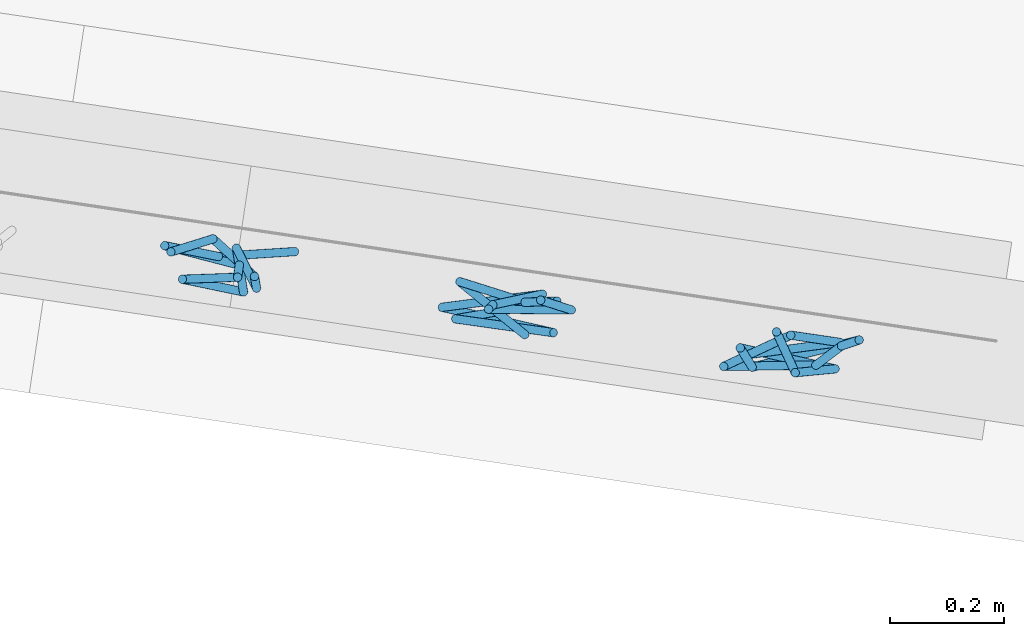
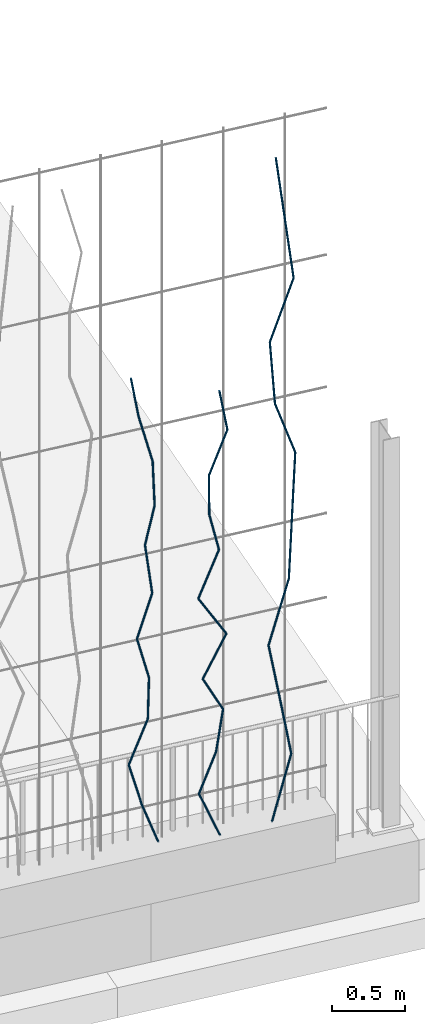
# One storey, part 120 of 142: 33 members, 1 element without a shape of its own.
"""IFC4 building model written with IfcOpenShell, lengths in metres."""

from ifc_helpers import new_model, si_unit, direction, frame, origin_with_axes, place, context, subcontext, project, spatial, circle, extrude, material, material_profile, profile_set, profile_usage, type_object, element, aggregate, save


model = new_model("IFC4")

# Units and contexts
model_context = context("Model", 3, precision=1e-05, world=origin_with_axes(), true_north=direction((0.0, 1.0)))
body_context = subcontext(model_context, "Body", "Model", "MODEL_VIEW")
ifc_project = project(units=[si_unit("VOLUMEUNIT", "CUBIC_METRE"), si_unit("LENGTHUNIT", "METRE"), si_unit("AREAUNIT", "SQUARE_METRE")], contexts=[model_context])

# Site, building, storey
site_placement = place(None, origin_with_axes())
site = spatial("IfcSite", under=ifc_project, at=site_placement, Name="Lares · Rua das Mercês · artigo 4771")
building_placement = place(site_placement, frame((12.0, 10.2, 13.9), z_axis=(0.0, 0.0, 1.0), x_axis=(0.989015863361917, -0.147809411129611, 0.0)))
building = spatial("IfcBuilding", under=site, at=building_placement, Name="Casa Sobreposta")
storey_placement = place(building_placement, origin_with_axes())
storey = spatial("IfcBuildingStorey", under=building, at=storey_placement, Name="00 · Habitação e estacionamento", Elevation=13.9)

# Assembly, members
assembly_placement = place(storey_placement, origin_with_axes())
assembly = element("IfcElementAssembly", 1, at=assembly_placement, inside=storey, Name="Fachada sul e pátio · estrutura e trepadeiras", ObjectType="LIVING_SHADE_TRELLIS", PredefinedType="USERDEFINED")
ifc_material = material(Name="Ramos de trepadeiras", Category="wood")
ifc_material_profile = material_profile(ifc_material, circle(Radius=0.0075))
ifc_profile_set = profile_set([ifc_material_profile], Name="D0.015")
ifc_profile_usage_1 = profile_usage(ifc_profile_set)
member_type = type_object("IfcMemberType", Name="D0.015 / vine_wood", PredefinedType="NOTDEFINED", material=ifc_profile_set)
member_1_placement = place(assembly_placement, frame((30.261618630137, -1.63679709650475, 0.35), z_axis=(-0.341987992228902, -0.073852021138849, 0.936797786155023), x_axis=(-0.211083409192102, 0.977468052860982, 0.0)))
member_1 = element("IfcMember", 2, at=member_1_placement, type_object=member_type, material=ifc_profile_usage_1, Name="Trepadeiras · ramo", context=body_context, shape_type="SweptSolid", body=[
    extrude(circle(Radius=0.0075), origin_with_axes(), (0.0, 0.0, 1.0), 0.381675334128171),
])
ifc_profile_usage_2 = profile_usage(ifc_profile_set)
member_2_placement = place(assembly_placement, frame((30.1310902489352, -1.66498459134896, 0.707552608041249), z_axis=(-0.258918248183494, 0.0129089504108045, 0.96581297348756), x_axis=(0.0497953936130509, 0.998759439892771, 0.0)))
member_2 = element("IfcMember", 3, at=member_2_placement, type_object=member_type, material=ifc_profile_usage_2, Name="Trepadeiras · ramo", context=body_context, shape_type="SweptSolid", body=[
    extrude(circle(Radius=0.0075), origin_with_axes(), (0.0, 0.0, 1.0), 0.370208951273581),
])
ifc_profile_usage_3 = profile_usage(ifc_profile_set)
member_3_placement = place(assembly_placement, frame((30.0352363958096, -1.66020558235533, 1.0651052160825), z_axis=(0.350865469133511, -0.0374713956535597, 0.935675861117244), x_axis=(-0.106193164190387, -0.994345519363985, 0.0)))
member_3 = element("IfcMember", 4, at=member_3_placement, type_object=member_type, material=ifc_profile_usage_3, Name="Trepadeiras · ramo", context=body_context, shape_type="SweptSolid", body=[
    extrude(circle(Radius=0.0075), origin_with_axes(), (0.0, 0.0, 1.0), 0.382132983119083),
])
ifc_profile_usage_4 = profile_usage(ifc_profile_set)
member_4_placement = place(assembly_placement, frame((30.1693136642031, -1.67452463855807, 1.42265782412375), z_axis=(0.000383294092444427, -0.0596842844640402, 0.998217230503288), x_axis=(-0.999979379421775, -0.00642189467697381, 0.0)))
member_4 = element("IfcMember", 5, at=member_4_placement, type_object=member_type, material=ifc_profile_usage_4, Name="Trepadeiras · ramo", context=body_context, shape_type="SweptSolid", body=[
    extrude(circle(Radius=0.0075), origin_with_axes(), (0.0, 0.0, 1.0), 0.358191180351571),
])
ifc_profile_usage_5 = profile_usage(ifc_profile_set)
member_5_placement = place(assembly_placement, frame((30.1694509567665, -1.69590302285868, 1.78021043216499), z_axis=(-0.256144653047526, -0.0477982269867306, 0.965455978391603), x_axis=(-0.183439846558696, 0.98303093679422, 0.0)))
member_5 = element("IfcMember", 6, at=member_5_placement, type_object=member_type, material=ifc_profile_usage_5, Name="Trepadeiras · ramo", context=body_context, shape_type="SweptSolid", body=[
    extrude(circle(Radius=0.0075), origin_with_axes(), (0.0, 0.0, 1.0), 0.370345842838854),
])
ifc_profile_usage_6 = profile_usage(ifc_profile_set)
member_6_placement = place(assembly_placement, frame((30.0745888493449, -1.71360489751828, 2.13776304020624), z_axis=(0.291697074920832, -0.0167889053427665, 0.956363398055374), x_axis=(-0.0574608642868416, -0.998347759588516, 0.0)))
member_6 = element("IfcMember", 7, at=member_6_placement, type_object=member_type, material=ifc_profile_usage_6, Name="Trepadeiras · ramo", context=body_context, shape_type="SweptSolid", body=[
    extrude(circle(Radius=0.0075), origin_with_axes(), (0.0, 0.0, 1.0), 0.373866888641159),
])
ifc_profile_usage_7 = profile_usage(ifc_profile_set)
member_7_placement = place(assembly_placement, frame((30.1836447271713, -1.71988171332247, 2.49531564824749), z_axis=(-0.064696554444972, 0.202860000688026, 0.977068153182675), x_axis=(0.95272176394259, 0.303844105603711, 7.96021462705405e-18)))
member_7 = element("IfcMember", 8, at=member_7_placement, type_object=member_type, material=ifc_profile_usage_7, Name="Trepadeiras · ramo", context=body_context, shape_type="SweptSolid", body=[
    extrude(circle(Radius=0.0075), origin_with_axes(), (0.0, 0.0, 1.0), 0.365944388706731),
])
ifc_profile_usage_8 = profile_usage(ifc_profile_set)
member_8_placement = place(assembly_placement, frame((30.1599693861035, -1.64564623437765, 2.85286825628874), z_axis=(0.123292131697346, -0.175486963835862, 0.976730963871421), x_axis=(-0.818242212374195, -0.574873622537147, 0.0)))
member_8 = element("IfcMember", 9, at=member_8_placement, type_object=member_type, material=ifc_profile_usage_8, Name="Trepadeiras · ramo", context=body_context, shape_type="SweptSolid", body=[
    extrude(circle(Radius=0.0075), origin_with_axes(), (0.0, 0.0, 1.0), 0.366070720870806),
])
ifc_profile_usage_9 = profile_usage(ifc_profile_set)
member_9_placement = place(assembly_placement, frame((30.2051030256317, -1.70988687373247, 3.21042086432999), z_axis=(-0.0181704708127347, 0.055018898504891, 0.998319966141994), x_axis=(0.949555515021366, 0.313598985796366, 0.0)))
member_9 = element("IfcMember", 10, at=member_9_placement, type_object=member_type, material=ifc_profile_usage_9, Name="Trepadeiras · ramo", context=body_context, shape_type="SweptSolid", body=[
    extrude(circle(Radius=0.0075), origin_with_axes(), (0.0, 0.0, 1.0), 0.358154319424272),
])
ifc_profile_usage_10 = profile_usage(ifc_profile_set)
member_10_placement = place(assembly_placement, frame((30.1985951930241, -1.69018161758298, 3.56797347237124), z_axis=(-0.219940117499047, 0.14657027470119, 0.964439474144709), x_axis=(0.554552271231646, 0.83214889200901, 0.0)))
member_10 = element("IfcMember", 11, at=member_10_placement, type_object=member_type, material=ifc_profile_usage_10, Name="Trepadeiras · ramo", context=body_context, shape_type="SweptSolid", body=[
    extrude(circle(Radius=0.0075), origin_with_axes(), (0.0, 0.0, 1.0), 0.370736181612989),
])
ifc_profile_usage_11 = profile_usage(ifc_profile_set)
member_11_placement = place(assembly_placement, frame((30.117055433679, -1.63584271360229, 3.92552608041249), z_axis=(-0.189986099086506, -0.0918125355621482, 0.977484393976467), x_axis=(-0.435114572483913, 0.90037509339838, 0.0)))
member_11 = element("IfcMember", 12, at=member_11_placement, type_object=member_type, material=ifc_profile_usage_11, Name="Trepadeiras · ramo", context=body_context, shape_type="SweptSolid", body=[
    extrude(circle(Radius=0.0075), origin_with_axes(), (0.0, 0.0, 1.0), 0.365788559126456),
])
ifc_profile_usage_12 = profile_usage(ifc_profile_set)
member_12_placement = place(assembly_placement, frame((30.6816189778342, -1.72103625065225, 0.35), z_axis=(-0.348194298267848, 0.206069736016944, 0.914492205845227), x_axis=(0.509312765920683, 0.860581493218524, 0.0)))
member_12 = element("IfcMember", 13, at=member_12_placement, type_object=member_type, material=ifc_profile_usage_12, Name="Trepadeiras · ramo", context=body_context, shape_type="SweptSolid", body=[
    extrude(circle(Radius=0.0075), origin_with_axes(), (0.0, 0.0, 1.0), 0.363374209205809),
])
ifc_profile_usage_13 = profile_usage(ifc_profile_set)
member_13_placement = place(assembly_placement, frame((30.5550941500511, -1.64615582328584, 0.682302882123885), z_axis=(0.33475661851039, -0.0529891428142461, 0.940813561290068), x_axis=(-0.156344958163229, -0.987702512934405, 0.0)))
member_13 = element("IfcMember", 14, at=member_13_placement, type_object=member_type, material=ifc_profile_usage_13, Name="Trepadeiras · ramo", context=body_context, shape_type="SweptSolid", body=[
    extrude(circle(Radius=0.0075), origin_with_axes(), (0.0, 0.0, 1.0), 0.353208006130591),
])
ifc_profile_usage_14 = profile_usage(ifc_profile_set)
member_14_placement = place(assembly_placement, frame((30.6733328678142, -1.66487201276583, 1.01460576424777), z_axis=(0.163555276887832, 0.0298620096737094, 0.986082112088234), x_axis=(0.179611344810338, -0.983737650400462, 0.0)))
member_14 = element("IfcMember", 15, at=member_14_placement, type_object=member_type, material=ifc_profile_usage_14, Name="Trepadeiras · ramo", context=body_context, shape_type="SweptSolid", body=[
    extrude(circle(Radius=0.0075), origin_with_axes(), (0.0, 0.0, 1.0), 0.336993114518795),
])
ifc_profile_usage_15 = profile_usage(ifc_profile_set)
member_15_placement = place(assembly_placement, frame((30.7284498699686, -1.6548087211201, 1.34690864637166), z_axis=(-0.452950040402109, -0.150341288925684, 0.87876831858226), x_axis=(-0.315016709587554, 0.949086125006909, 0.0)))
member_15 = element("IfcMember", 16, at=member_15_placement, type_object=member_type, material=ifc_profile_usage_15, Name="Trepadeiras · ramo", context=body_context, shape_type="SweptSolid", body=[
    extrude(circle(Radius=0.0075), origin_with_axes(), (0.0, 0.0, 1.0), 0.378146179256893),
])
ifc_profile_usage_16 = profile_usage(ifc_profile_set)
member_16_placement = place(assembly_placement, frame((30.5571685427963, -1.7116597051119, 1.67921152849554), z_axis=(0.462645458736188, 0.00382392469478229, 0.886535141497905), x_axis=(0.00826506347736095, -0.999965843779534, 0.0)))
member_16 = element("IfcMember", 17, at=member_16_placement, type_object=member_type, material=ifc_profile_usage_16, Name="Trepadeiras · ramo", context=body_context, shape_type="SweptSolid", body=[
    extrude(circle(Radius=0.0075), origin_with_axes(), (0.0, 0.0, 1.0), 0.37483328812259),
])
ifc_profile_usage_17 = profile_usage(ifc_profile_set)
member_17_placement = place(assembly_placement, frame((30.7305834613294, -1.71022637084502, 2.01151441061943), z_axis=(-0.514458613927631, 0.0391758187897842, 0.856619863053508), x_axis=(0.0759297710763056, 0.997113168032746, 0.0)))
member_17 = element("IfcMember", 18, at=member_17_placement, type_object=member_type, material=ifc_profile_usage_17, Name="Trepadeiras · ramo", context=body_context, shape_type="SweptSolid", body=[
    extrude(circle(Radius=0.0075), origin_with_axes(), (0.0, 0.0, 1.0), 0.387923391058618),
])
ifc_profile_usage_18 = profile_usage(ifc_profile_set)
member_18_placement = place(assembly_placement, frame((30.5310129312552, -1.69502915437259, 2.34381729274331), z_axis=(0.452918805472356, 0.129015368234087, 0.882167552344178), x_axis=(0.273955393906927, -0.961742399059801, 0.0)))
member_18 = element("IfcMember", 19, at=member_18_placement, type_object=member_type, material=ifc_profile_usage_18, Name="Trepadeiras · ramo", context=body_context, shape_type="SweptSolid", body=[
    extrude(circle(Radius=0.0075), origin_with_axes(), (0.0, 0.0, 1.0), 0.376689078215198),
])
ifc_profile_usage_19 = profile_usage(ifc_profile_set)
member_19_placement = place(assembly_placement, frame((30.7016224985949, -1.6464304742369, 2.6761201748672), z_axis=(-0.242328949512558, -0.0911697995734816, 0.96590100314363), x_axis=(-0.352127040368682, 0.935952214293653, 0.0)))
member_19 = element("IfcMember", 20, at=member_19_placement, type_object=member_type, material=ifc_profile_usage_19, Name="Trepadeiras · ramo", context=body_context, shape_type="SweptSolid", body=[
    extrude(circle(Radius=0.0075), origin_with_axes(), (0.0, 0.0, 1.0), 0.344034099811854),
])
ifc_profile_usage_20 = profile_usage(ifc_profile_set)
member_20_placement = place(assembly_placement, frame((30.618253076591, -1.67779599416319, 3.00842305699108), z_axis=(-0.018591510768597, -0.0255179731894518, 0.999501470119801), x_axis=(0.999827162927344, -0.000474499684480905, 0.0185854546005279)))
member_20 = element("IfcMember", 21, at=member_20_placement, type_object=member_type, material=ifc_profile_usage_20, Name="Trepadeiras · ramo", context=body_context, shape_type="SweptSolid", body=[
    extrude(circle(Radius=0.0075), origin_with_axes(), (0.0, 0.0, 1.0), 0.332468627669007),
])
ifc_profile_usage_21 = profile_usage(ifc_profile_set)
member_21_placement = place(assembly_placement, frame((30.6120719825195, -1.68627991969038, 3.34072593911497), z_axis=(0.395625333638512, 0.0554248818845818, 0.916738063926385), x_axis=(0.138739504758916, -0.990328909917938, 0.0)))
member_21 = element("IfcMember", 22, at=member_21_placement, type_object=member_type, material=ifc_profile_usage_21, Name="Trepadeiras · ramo", context=body_context, shape_type="SweptSolid", body=[
    extrude(circle(Radius=0.0075), origin_with_axes(), (0.0, 0.0, 1.0), 0.362484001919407),
])
ifc_profile_usage_22 = profile_usage(ifc_profile_set)
member_22_placement = place(assembly_placement, frame((30.7554798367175, -1.66618928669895, 3.67302882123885), z_axis=(-0.164939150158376, 0.0266499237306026, 0.985943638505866), x_axis=(0.159505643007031, 0.987197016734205, 0.0)))
member_22 = element("IfcMember", 23, at=member_22_placement, type_object=member_type, material=ifc_profile_usage_22, Name="Trepadeiras · ramo", context=body_context, shape_type="SweptSolid", body=[
    extrude(circle(Radius=0.0075), origin_with_axes(), (0.0, 0.0, 1.0), 0.337040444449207),
])
ifc_profile_usage_23 = profile_usage(ifc_profile_set)
member_23_placement = place(assembly_placement, frame((31.0679707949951, -1.69918109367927, 0.35), z_axis=(0.30526701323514, 0.0879293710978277, 0.948198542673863), x_axis=(0.276787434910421, -0.960931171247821, 0.0)))
member_23 = element("IfcMember", 24, at=member_23_placement, type_object=member_type, material=ifc_profile_usage_23, Name="Trepadeiras · ramo", context=body_context, shape_type="SweptSolid", body=[
    extrude(circle(Radius=0.0075), origin_with_axes(), (0.0, 0.0, 1.0), 0.525688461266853),
])
ifc_profile_usage_24 = profile_usage(ifc_profile_set)
member_24_placement = place(assembly_placement, frame((31.2284461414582, -1.65295763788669, 0.848457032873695), z_axis=(-0.171477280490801, -0.000359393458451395, 0.985188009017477), x_axis=(-0.00209586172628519, 0.9999978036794, 0.0)))
member_24 = element("IfcMember", 25, at=member_24_placement, type_object=member_type, material=ifc_profile_usage_24, Name="Trepadeiras · ramo", context=body_context, shape_type="SweptSolid", body=[
    extrude(circle(Radius=0.0075), origin_with_axes(), (0.0, 0.0, 1.0), 0.505951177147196),
])
ifc_profile_usage_25 = profile_usage(ifc_profile_set)
member_25_placement = place(assembly_placement, frame((31.1416870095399, -1.65313947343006, 1.34691406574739), z_axis=(-0.209536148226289, -0.138759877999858, 0.967905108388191), x_axis=(-0.552133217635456, 0.833755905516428, 1.33620471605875e-17)))
member_25 = element("IfcMember", 26, at=member_25_placement, type_object=member_type, material=ifc_profile_usage_25, Name="Trepadeiras · ramo", context=body_context, shape_type="SweptSolid", body=[
    extrude(circle(Radius=0.0075), origin_with_axes(), (0.0, 0.0, 1.0), 0.514985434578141),
])
ifc_profile_usage_26 = profile_usage(ifc_profile_set)
member_26_placement = place(assembly_placement, frame((31.0337789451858, -1.72459878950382, 1.84537109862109), z_axis=(0.303896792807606, 0.0499440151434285, 0.951394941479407), x_axis=(0.162169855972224, -0.986762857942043, 0.0)))
member_26 = element("IfcMember", 27, at=member_26_placement, type_object=member_type, material=ifc_profile_usage_26, Name="Trepadeiras · ramo", context=body_context, shape_type="SweptSolid", body=[
    extrude(circle(Radius=0.0075), origin_with_axes(), (0.0, 0.0, 1.0), 0.523922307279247),
])
ifc_profile_usage_27 = profile_usage(ifc_profile_set)
member_27_placement = place(assembly_placement, frame((31.1929972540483, -1.69843200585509, 2.34382813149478), z_axis=(0.0784318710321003, 0.0796506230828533, 0.993732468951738), x_axis=(0.71253711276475, -0.701634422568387, 0.0)))
member_27 = element("IfcMember", 28, at=member_27_placement, type_object=member_type, material=ifc_profile_usage_27, Name="Trepadeiras · ramo", context=body_context, shape_type="SweptSolid", body=[
    extrude(circle(Radius=0.0075), origin_with_axes(), (0.0, 0.0, 1.0), 0.501600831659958),
])
ifc_profile_usage_28 = profile_usage(ifc_profile_set)
member_28_placement = place(assembly_placement, frame((31.2323387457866, -1.6584791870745, 2.84228516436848), z_axis=(0.0579605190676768, 0.0295137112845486, 0.997882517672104), x_axis=(0.453762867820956, -0.891122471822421, 0.0)))
member_28 = element("IfcMember", 29, at=member_28_placement, type_object=member_type, material=ifc_profile_usage_28, Name="Trepadeiras · ramo", context=body_context, shape_type="SweptSolid", body=[
    extrude(circle(Radius=0.0075), origin_with_axes(), (0.0, 0.0, 1.0), 0.499514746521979),
])
ifc_profile_usage_29 = profile_usage(ifc_profile_set)
member_29_placement = place(assembly_placement, frame((31.261290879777, -1.64373665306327, 3.34074219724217), z_axis=(-0.333224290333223, -0.139669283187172, 0.932445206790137), x_axis=(-0.386562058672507, 0.922263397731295, 0.0)))
member_29 = element("IfcMember", 30, at=member_29_placement, type_object=member_type, material=ifc_profile_usage_29, Name="Trepadeiras · ramo", context=body_context, shape_type="SweptSolid", body=[
    extrude(circle(Radius=0.0075), origin_with_axes(), (0.0, 0.0, 1.0), 0.534569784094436),
])
ifc_profile_usage_30 = profile_usage(ifc_profile_set)
member_30_placement = place(assembly_placement, frame((31.0831592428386, -1.71839963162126, 3.83919923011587), z_axis=(-0.0511214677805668, 0.0604637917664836, 0.99686043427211), x_axis=(0.763636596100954, 0.645646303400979, 0.0)))
member_30 = element("IfcMember", 31, at=member_30_placement, type_object=member_type, material=ifc_profile_usage_30, Name="Trepadeiras · ramo", context=body_context, shape_type="SweptSolid", body=[
    extrude(circle(Radius=0.0075), origin_with_axes(), (0.0, 0.0, 1.0), 0.500026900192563),
])
ifc_profile_usage_31 = profile_usage(ifc_profile_set)
member_31_placement = place(assembly_placement, frame((31.0575971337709, -1.68816610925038, 4.33765626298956), z_axis=(0.321908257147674, -0.0224785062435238, 0.946503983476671), x_axis=(-0.0696592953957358, -0.997570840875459, 0.0)))
member_31 = element("IfcMember", 32, at=member_31_placement, type_object=member_type, material=ifc_profile_usage_31, Name="Trepadeiras · ramo", context=body_context, shape_type="SweptSolid", body=[
    extrude(circle(Radius=0.0075), origin_with_axes(), (0.0, 0.0, 1.0), 0.526629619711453),
])
ifc_profile_usage_32 = profile_usage(ifc_profile_set)
member_32_placement = place(assembly_placement, frame((31.2271235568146, -1.70000395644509, 4.83611329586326), z_axis=(-0.135139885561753, -0.033668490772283, 0.990254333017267), x_axis=(-0.241748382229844, 0.970338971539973, 0.0)))
member_32 = element("IfcMember", 33, at=member_32_placement, type_object=member_type, material=ifc_profile_usage_32, Name="Trepadeiras · ramo", context=body_context, shape_type="SweptSolid", body=[
    extrude(circle(Radius=0.0075), origin_with_axes(), (0.0, 0.0, 1.0), 0.503362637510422),
])
ifc_profile_usage_33 = profile_usage(ifc_profile_set)
member_33_placement = place(assembly_placement, frame((31.1590991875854, -1.71695141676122, 5.33457032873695), z_axis=(-0.0851428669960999, 0.130646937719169, 0.987766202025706), x_axis=(0.837791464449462, 0.545990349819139, 0.0)))
member_33 = element("IfcMember", 34, at=member_33_placement, type_object=member_type, material=ifc_profile_usage_33, Name="Trepadeiras · ramo", context=body_context, shape_type="SweptSolid", body=[
    extrude(circle(Radius=0.0075), origin_with_axes(), (0.0, 0.0, 1.0), 0.504630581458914),
])
aggregate(assembly, [member_1, member_2, member_3, member_4, member_5, member_6, member_7, member_8, member_9, member_10, member_11, member_12, member_13, member_14, member_15, member_16, member_17, member_18, member_19, member_20, member_21, member_22, member_23, member_24, member_25, member_26, member_27, member_28, member_29, member_30, member_31, member_32, member_33])

save(model, "model.ifc")
